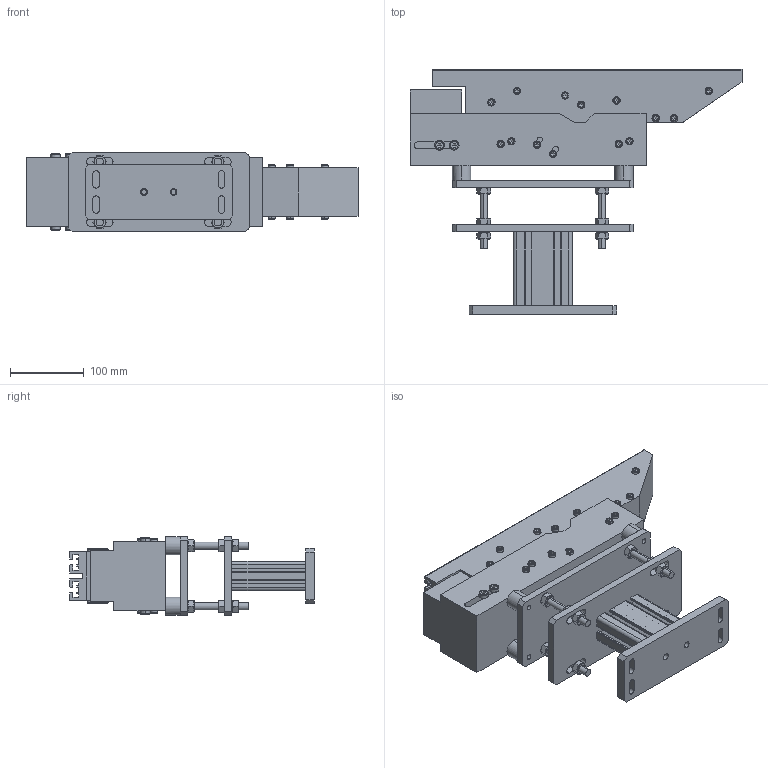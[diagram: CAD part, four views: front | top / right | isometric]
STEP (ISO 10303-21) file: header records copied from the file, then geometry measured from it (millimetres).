
FILE_DESCRIPTION (( 'STEP AP203' ), '1' );
FILE_NAME ('ZL450 盓殤恁饜23.04.STEP', '2023-04-13T02:04:12', ( '' ), ( '' ), 'SwSTEP 2.0', 'SolidWorks 2022', '' );
FILE_SCHEMA (( 'CONFIG_CONTROL_DESIGN' ));
Length unit declared in the file: millimetre
Products named in the file (1): ZL450  盓殤恁饜23.04
Bounding box: 450 x 332 x 107 mm (x, y, z)
Volume: 4406157.4 mm3; surface area: 556391.4 mm2
Topology: 33 solids, 37 shells, 1287 faces, 3019 edges, 1872 vertices
Faces by surface type: plane 842, cone 192, cylinder 189, bspline 64
Entity records: 38308 total; most frequent: CARTESIAN_POINT 8955, ORIENTED_EDGE 6022, DIRECTION 5957, EDGE_CURVE 3011, LINE 2001, VECTOR 2001, AXIS2_PLACEMENT_3D 1978, VERTEX_POINT 1872
